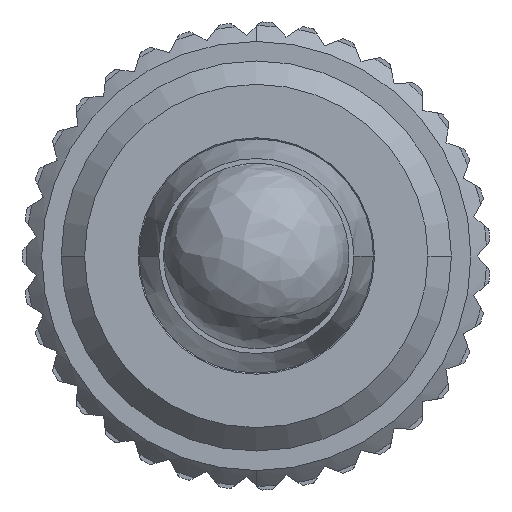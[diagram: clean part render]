
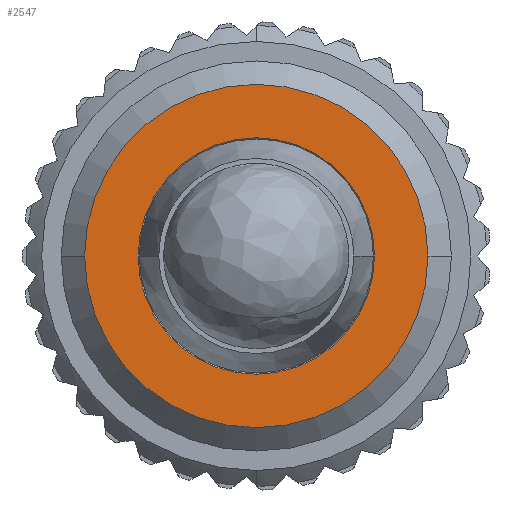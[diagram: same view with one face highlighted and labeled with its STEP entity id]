
A CAD part, left-side view. The second image highlights one B-rep face of the part: STEP entity #2547.
In plain terms, the highlighted planar face has unit normal (-1, 0, 0).
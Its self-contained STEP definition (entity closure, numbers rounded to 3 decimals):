
#2523 = ORIENTED_EDGE ( 'NONE', *, *, #2538, .F. ) ;
#2524 = ORIENTED_EDGE ( 'NONE', *, *, #3047, .F. ) ;
#2525 = EDGE_LOOP ( 'NONE', ( #2526, #2527 ) ) ;
#2526 = ORIENTED_EDGE ( 'NONE', *, *, #3016, .F. ) ;
#2527 = ORIENTED_EDGE ( 'NONE', *, *, #2528, .F. ) ;
#2528 = EDGE_CURVE ( 'NONE', #3018, #3017, #7455, .T. ) ;
#2538 = EDGE_CURVE ( 'NONE', #3048, #3045, #7505, .T. ) ;
#2547 = ADVANCED_FACE ( 'NONE', ( #7488, #7487 ), #7486, .F. ) ;
#2548 = EDGE_LOOP ( 'NONE', ( #2523, #2524 ) ) ;
#3016 = EDGE_CURVE ( 'NONE', #3017, #3018, #8399, .T. ) ;
#3017 = VERTEX_POINT ( 'NONE', #8468 ) ;
#3018 = VERTEX_POINT ( 'NONE', #8467 ) ;
#3045 = VERTEX_POINT ( 'NONE', #8472 ) ;
#3047 = EDGE_CURVE ( 'NONE', #3045, #3048, #8471, .T. ) ;
#3048 = VERTEX_POINT ( 'NONE', #8527 ) ;
#7451 = DIRECTION ( 'NONE',  ( 0., 1., 0. ) ) ;
#7452 = DIRECTION ( 'NONE',  ( 1., 0., 0. ) ) ;
#7453 = CARTESIAN_POINT ( 'NONE',  ( 8.082, -0.782, 0. ) ) ;
#7454 = AXIS2_PLACEMENT_3D ( 'NONE', #7453, #7452, #7451 ) ;
#7455 = CIRCLE ( 'NONE', #7454, 4.4 ) ;
#7482 = DIRECTION ( 'NONE',  ( 0., 0., -1. ) ) ;
#7483 = DIRECTION ( 'NONE',  ( 1., 0., 0. ) ) ;
#7484 = CARTESIAN_POINT ( 'NONE',  ( 8.082, -0.782, 0. ) ) ;
#7485 = AXIS2_PLACEMENT_3D ( 'NONE', #7484, #7483, #7482 ) ;
#7486 = PLANE ( 'NONE',  #7485 ) ;
#7487 = FACE_OUTER_BOUND ( 'NONE', #2525, .T. ) ;
#7488 = FACE_BOUND ( 'NONE', #2548, .T. ) ;
#7501 = DIRECTION ( 'NONE',  ( 0., 0., 1. ) ) ;
#7502 = DIRECTION ( 'NONE',  ( -1., 0., 0. ) ) ;
#7503 = CARTESIAN_POINT ( 'NONE',  ( 8.082, -0.782, 0. ) ) ;
#7504 = AXIS2_PLACEMENT_3D ( 'NONE', #7503, #7502, #7501 ) ;
#7505 = CIRCLE ( 'NONE', #7504, 3.029 ) ;
#8395 = DIRECTION ( 'NONE',  ( 0., 1., 0. ) ) ;
#8396 = DIRECTION ( 'NONE',  ( 1., 0., 0. ) ) ;
#8397 = CARTESIAN_POINT ( 'NONE',  ( 8.082, -0.782, 0. ) ) ;
#8398 = AXIS2_PLACEMENT_3D ( 'NONE', #8397, #8396, #8395 ) ;
#8399 = CIRCLE ( 'NONE', #8398, 4.4 ) ;
#8467 = CARTESIAN_POINT ( 'NONE',  ( 8.082, -5.182, 0. ) ) ;
#8468 = CARTESIAN_POINT ( 'NONE',  ( 8.082, 3.618, 0. ) ) ;
#8469 = CARTESIAN_POINT ( 'NONE',  ( 8.082, -0.782, 0. ) ) ;
#8470 = AXIS2_PLACEMENT_3D ( 'NONE', #8469, #8529, #8528 ) ;
#8471 = CIRCLE ( 'NONE', #8470, 3.029 ) ;
#8472 = CARTESIAN_POINT ( 'NONE',  ( 8.082, -0.782, -3.029 ) ) ;
#8527 = CARTESIAN_POINT ( 'NONE',  ( 8.082, -0.782, 3.029 ) ) ;
#8528 = DIRECTION ( 'NONE',  ( 0., 0., 1. ) ) ;
#8529 = DIRECTION ( 'NONE',  ( -1., 0., 0. ) ) ;
